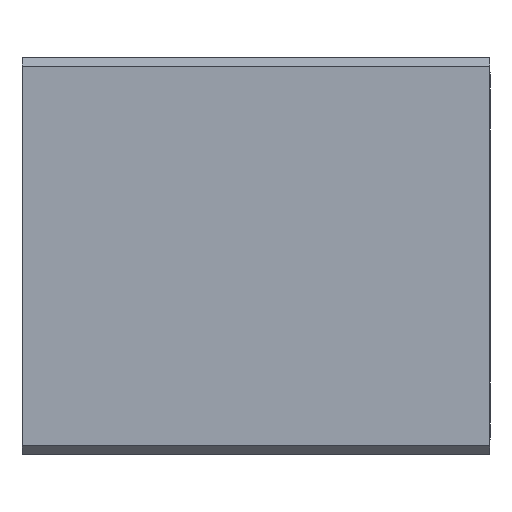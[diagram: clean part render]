
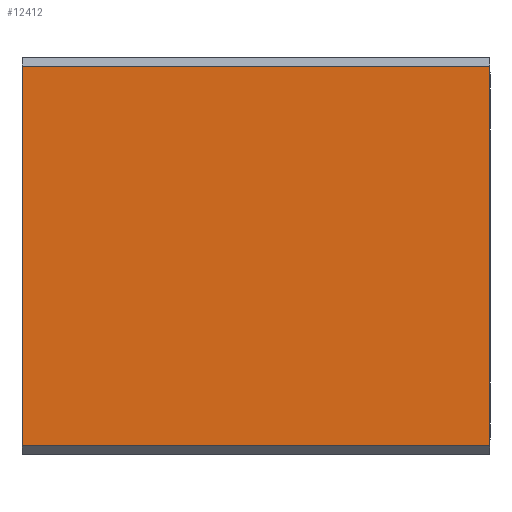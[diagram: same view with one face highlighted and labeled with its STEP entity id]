
A CAD part, front view. The second image highlights one B-rep face of the part: STEP entity #12412.
In plain terms, the highlighted planar face has unit normal (0, -1, 0).
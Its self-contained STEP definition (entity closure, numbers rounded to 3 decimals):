
#753 = EDGE_CURVE ( 'NONE', #13551, #7649, #1676, .T. ) ;
#905 = VECTOR ( 'NONE', #1019, 1000. ) ;
#1019 = DIRECTION ( 'NONE',  ( 0., 0., -1. ) ) ;
#1478 = CARTESIAN_POINT ( 'NONE',  ( 53., -22.5, 22.5 ) ) ;
#1676 = LINE ( 'NONE', #1478, #905 ) ;
#2123 = VERTEX_POINT ( 'NONE', #5351 ) ;
#2203 = CARTESIAN_POINT ( 'NONE',  ( 53., -22.5, 21.5 ) ) ;
#2225 = CARTESIAN_POINT ( 'NONE',  ( 53., -22.5, -21.5 ) ) ;
#3309 = AXIS2_PLACEMENT_3D ( 'NONE', #9350, #9337, #9319 ) ;
#4247 = ORIENTED_EDGE ( 'NONE', *, *, #753, .F. ) ;
#4667 = DIRECTION ( 'NONE',  ( -1., 0., 0. ) ) ;
#4736 = CARTESIAN_POINT ( 'NONE',  ( 53., -22.5, -21.5 ) ) ;
#4788 = ORIENTED_EDGE ( 'NONE', *, *, #6225, .T. ) ;
#4803 = DIRECTION ( 'NONE',  ( 1., 0., 0. ) ) ;
#5338 = ORIENTED_EDGE ( 'NONE', *, *, #6247, .T. ) ;
#5351 = CARTESIAN_POINT ( 'NONE',  ( 0., -22.5, 21.5 ) ) ;
#5369 = LINE ( 'NONE', #14603, #14569 ) ;
#5703 = VERTEX_POINT ( 'NONE', #9279 ) ;
#6067 = DIRECTION ( 'NONE',  ( 0., 0., -1. ) ) ;
#6087 = EDGE_CURVE ( 'NONE', #2123, #5703, #8906, .T. ) ;
#6155 = CARTESIAN_POINT ( 'NONE',  ( 0., -22.5, 22.5 ) ) ;
#6225 = EDGE_CURVE ( 'NONE', #5703, #7649, #15393, .T. ) ;
#6247 = EDGE_CURVE ( 'NONE', #13551, #2123, #5369, .T. ) ;
#7533 = EDGE_LOOP ( 'NONE', ( #9905, #4788, #4247, #5338 ) ) ;
#7649 = VERTEX_POINT ( 'NONE', #2225 ) ;
#8285 = VECTOR ( 'NONE', #6067, 1000. ) ;
#8906 = LINE ( 'NONE', #6155, #8285 ) ;
#9279 = CARTESIAN_POINT ( 'NONE',  ( 0., -22.5, -21.5 ) ) ;
#9319 = DIRECTION ( 'NONE',  ( 0., 0., 1. ) ) ;
#9337 = DIRECTION ( 'NONE',  ( 0., 1., 0. ) ) ;
#9350 = CARTESIAN_POINT ( 'NONE',  ( 53., -22.5, 22.5 ) ) ;
#9513 = PLANE ( 'NONE',  #3309 ) ;
#9905 = ORIENTED_EDGE ( 'NONE', *, *, #6087, .T. ) ;
#10849 = FACE_OUTER_BOUND ( 'NONE', #7533, .T. ) ;
#12412 = ADVANCED_FACE ( 'NONE', ( #10849 ), #9513, .F. ) ;
#13551 = VERTEX_POINT ( 'NONE', #2203 ) ;
#14569 = VECTOR ( 'NONE', #4667, 1000. ) ;
#14603 = CARTESIAN_POINT ( 'NONE',  ( 53., -22.5, 21.5 ) ) ;
#14754 = VECTOR ( 'NONE', #4803, 1000. ) ;
#15393 = LINE ( 'NONE', #4736, #14754 ) ;
